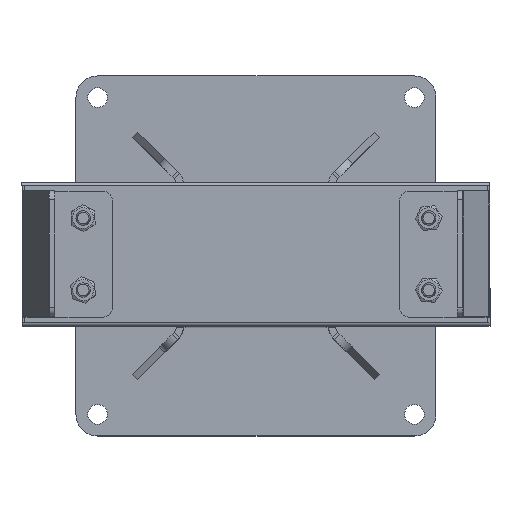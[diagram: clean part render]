
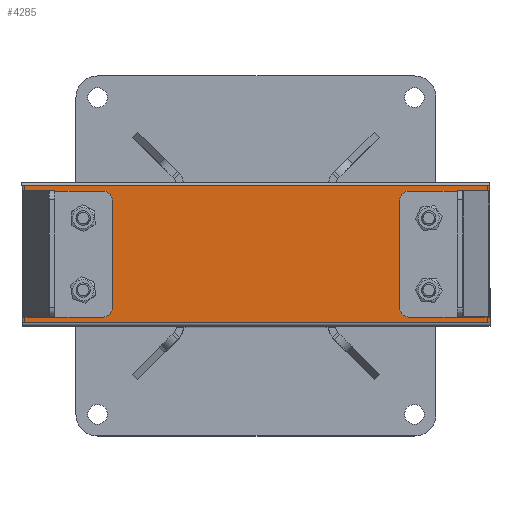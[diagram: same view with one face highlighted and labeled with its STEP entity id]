
A CAD part, top view. The second image highlights one B-rep face of the part: STEP entity #4285.
In plain terms, the highlighted planar face has unit normal (0, 0, 1) as drawn and (-1, 0, 0) by its records, which use the part's own axes.
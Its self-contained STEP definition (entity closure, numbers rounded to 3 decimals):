
#411=PLANE('',#4853);
#611=FACE_OUTER_BOUND('',#904,.T.);
#904=EDGE_LOOP('',(#3754,#3755,#3756,#3757));
#1287=LINE('',#7191,#1679);
#1288=LINE('',#7196,#1680);
#1289=LINE('',#7199,#1681);
#1290=LINE('',#7200,#1682);
#1679=VECTOR('',#5890,10.);
#1680=VECTOR('',#5897,10.);
#1681=VECTOR('',#5900,10.);
#1682=VECTOR('',#5901,10.);
#2209=VERTEX_POINT('',#7188);
#2210=VERTEX_POINT('',#7190);
#2211=VERTEX_POINT('',#7194);
#2212=VERTEX_POINT('',#7198);
#2739=EDGE_CURVE('',#2209,#2210,#1287,.T.);
#2742=EDGE_CURVE('',#2210,#2211,#1288,.T.);
#2743=EDGE_CURVE('',#2212,#2209,#1289,.T.);
#2744=EDGE_CURVE('',#2212,#2211,#1290,.T.);
#3754=ORIENTED_EDGE('',*,*,#2742,.F.);
#3755=ORIENTED_EDGE('',*,*,#2739,.F.);
#3756=ORIENTED_EDGE('',*,*,#2743,.F.);
#3757=ORIENTED_EDGE('',*,*,#2744,.T.);
#4285=ADVANCED_FACE('',(#611),#411,.T.);
#4853=AXIS2_PLACEMENT_3D('',#7197,#5898,#5899);
#5890=DIRECTION('',(0.,1.,0.));
#5897=DIRECTION('',(0.,0.,1.));
#5898=DIRECTION('center_axis',(-1.,0.,0.));
#5899=DIRECTION('ref_axis',(0.,0.,1.));
#5900=DIRECTION('',(0.,0.,-1.));
#5901=DIRECTION('',(0.,1.,0.));
#7188=CARTESIAN_POINT('',(-40.,2.,0.));
#7190=CARTESIAN_POINT('',(-40.,78.,0.));
#7191=CARTESIAN_POINT('',(-40.,0.,0.));
#7194=CARTESIAN_POINT('',(-40.,78.,260.));
#7196=CARTESIAN_POINT('',(-40.,78.,0.));
#7197=CARTESIAN_POINT('Origin',(-40.,0.,0.));
#7198=CARTESIAN_POINT('',(-40.,2.,260.));
#7199=CARTESIAN_POINT('',(-40.,2.,0.));
#7200=CARTESIAN_POINT('',(-40.,0.,260.));
